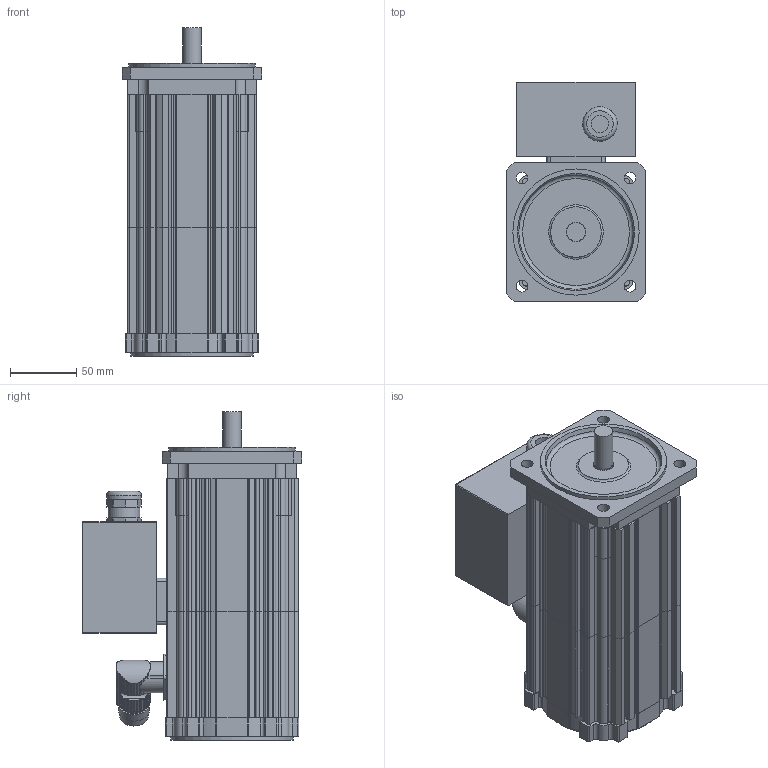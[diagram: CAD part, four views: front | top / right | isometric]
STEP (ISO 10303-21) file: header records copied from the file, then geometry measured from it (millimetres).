
FILE_DESCRIPTION(/* description */ (''),/* implementation_level */ '2;1');
FILE_NAME(/* name */ 'KSA444_Ix',/* time_stamp */ '2009-02-26T13:46:11+01:00',/* author */ (''),/* organization */ (''),/* preprocessor_version */ 'ST-DEVELOPER v8',/* originating_system */ 'UNIGRAPHICS SOLUTIONS - UNIGRAPHICS 18.0',/* authorisation */ '');
FILE_SCHEMA (('AUTOMOTIVE_DESIGN { 1 2 10303 214 0 1 1 1 }'));
Length unit declared in the file: millimetre
Products named in the file (7): 0280391350_0; Lagersch4AS_0; Winkelflanschdose_0; Lagersch4BS_0; 089105X_0; Klemmenkasten_0; KSA444_I27_0
Assembly tree (6 placements, depth 3):
  KSA444_I27_0
    089105X_0
    Lagersch4BS_0
    Klemmenkasten_0
      0280391350_0
    Winkelflanschdose_0
    Lagersch4AS_0
Bounding box: 105 x 165.35 x 247.5 mm (x, y, z)
Volume: 1354698.9 mm3; surface area: 343040.3 mm2
Topology: 7 solids, 7 shells, 748 faces, 2115 edges, 1399 vertices
Faces by surface type: cylinder 424, plane 290, torus 12, cone 10, bspline 8, sphere 4
Full cylindrical faces by diameter (mm): 9 x4, 13 x1, 14 x1, 15 x1, 16 x1, 18 x1, 20 x2, 21 x1, 21.5 x1, 23 x2, 24 x1, 26 x1, 89.6 x2, 91 x1, 95 x1
Entity records: 24949 total; most frequent: CARTESIAN_POINT 5174, DIRECTION 4142, ORIENTED_EDGE 4138, EDGE_CURVE 2069, AXIS2_PLACEMENT_3D 1522, VERTEX_POINT 1388, LINE 1098, VECTOR 1098
